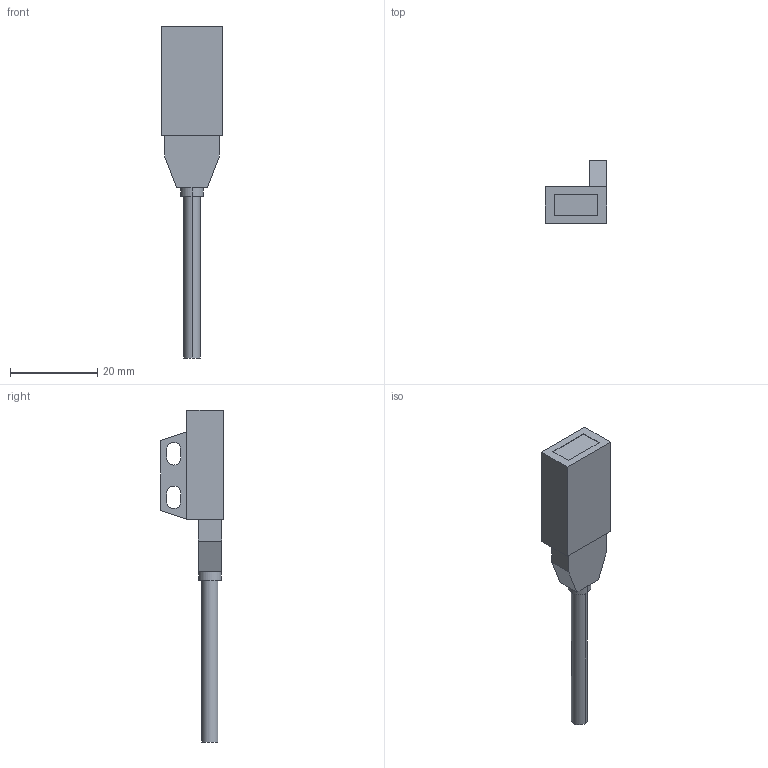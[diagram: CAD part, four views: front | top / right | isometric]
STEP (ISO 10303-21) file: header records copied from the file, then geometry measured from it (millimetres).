
FILE_DESCRIPTION (( 'STEP AP203' ), '1' );
FILE_NAME ('PM2-LL10-C1.STEP', '2005-09-06T02:00:07', ( '' ), ( '' ), 'SwSTEP 2.0', 'SolidWorks 2004073', '' );
FILE_SCHEMA (( 'CONFIG_CONTROL_DESIGN' ));
Length unit declared in the file: millimetre
Products named in the file (1): PM2-LL10-C1
Bounding box: 14 x 14.4 x 76 mm (x, y, z)
Volume: 4392.5 mm3; surface area: 2492.8 mm2
Topology: 1 solids, 1 shells, 41 faces, 101 edges, 67 vertices
Faces by surface type: plane 29, cylinder 12
Entity records: 1296 total; most frequent: CARTESIAN_POINT 210, DIRECTION 209, ORIENTED_EDGE 202, EDGE_CURVE 101, VECTOR 77, LINE 77, VERTEX_POINT 67, AXIS2_PLACEMENT_3D 66
